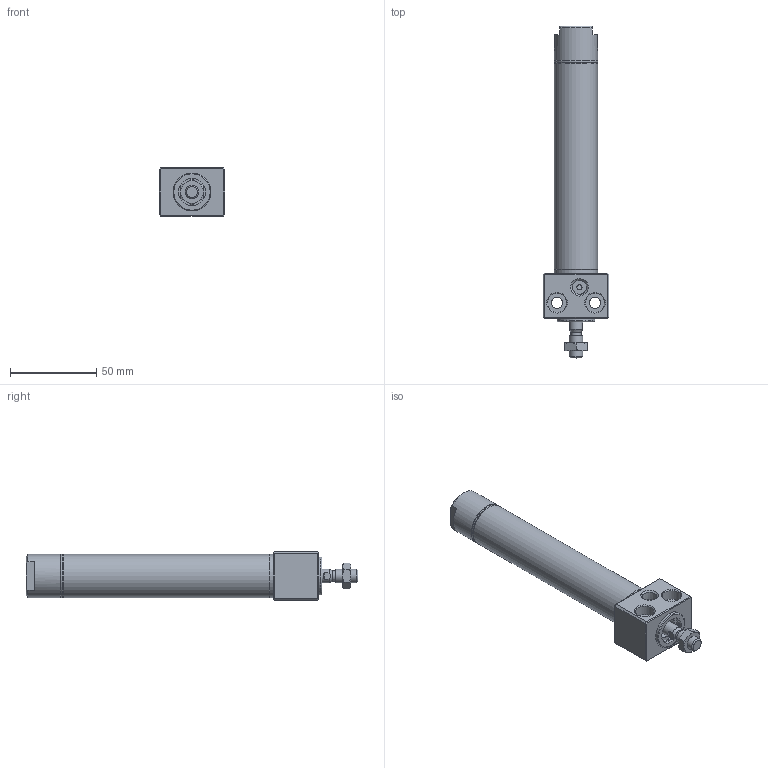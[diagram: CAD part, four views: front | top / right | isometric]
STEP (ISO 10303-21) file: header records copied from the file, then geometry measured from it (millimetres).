
FILE_DESCRIPTION((''),'2;1');
FILE_NAME('I:\3D電子目錄\氣缸\DBS\DBS\DBS20x75.stp','2007-10-08T08:30:52',('Administrator'),(''),'Autodesk Inventor 2008','Autodesk Inventor 2008','');
FILE_SCHEMA(('AUTOMOTIVE_DESIGN { 1 0 10303 214 1 1 1 1 }'));
Length unit declared in the file: millimetre
Products named in the file (1): DBS20x75
Bounding box: 38 x 192.6 x 28 mm (x, y, z)
Volume: 62824.7 mm3; surface area: 34459.6 mm2
Topology: 6 solids, 6 shells, 165 faces, 325 edges, 197 vertices
Faces by surface type: plane 73, cone 41, cylinder 36, bspline 12, torus 3
Full cylindrical faces by diameter (mm): 3 x1, 5 x1, 6 x3, 8 x3, 8.5 x1, 10 x1, 10.5 x2, 12 x3, 14.5 x2, 16 x2, 17 x1, 18 x2, 20 x1, 20.2 x2, 22 x1, 22.2 x6, 25 x4
Entity records: 4012 total; most frequent: CARTESIAN_POINT 924, DIRECTION 650, ORIENTED_EDGE 486, AXIS2_PLACEMENT_3D 287, EDGE_LOOP 282, EDGE_CURVE 243, VERTEX_POINT 189, FACE_OUTER_BOUND 165
